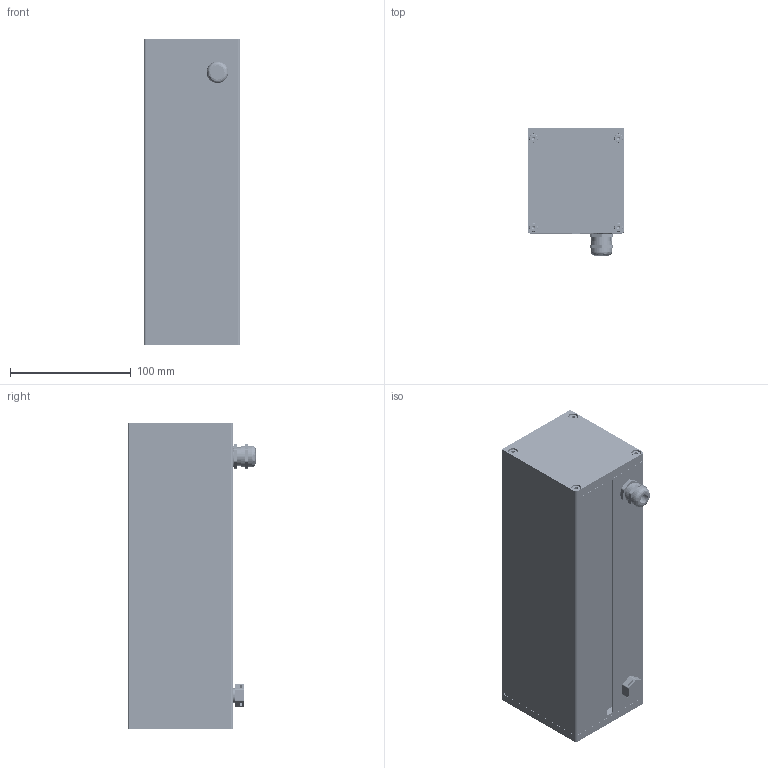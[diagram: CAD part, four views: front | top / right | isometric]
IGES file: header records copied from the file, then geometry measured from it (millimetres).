
Start section: SolidWorks IGES file using analytic representation for surfaces
Global section: file name: C:\Users\User2\Desktop\Lego IGS\Lego 6x2.IGS; native system: SolidWorks 2024; preprocessor: SolidWorks 2024; author: User2; date: 251022.124404; units: millimetre
Bounding box: 80 x 105.4 x 254 mm (x, y, z)
Surface area: 353804.1 mm2 (no closed solid volume)
Topology: 0 solids, 0 shells, 2736 faces, 33318 edges, 33280 vertices
Faces by surface type: bspline 1584, revolution 1152
